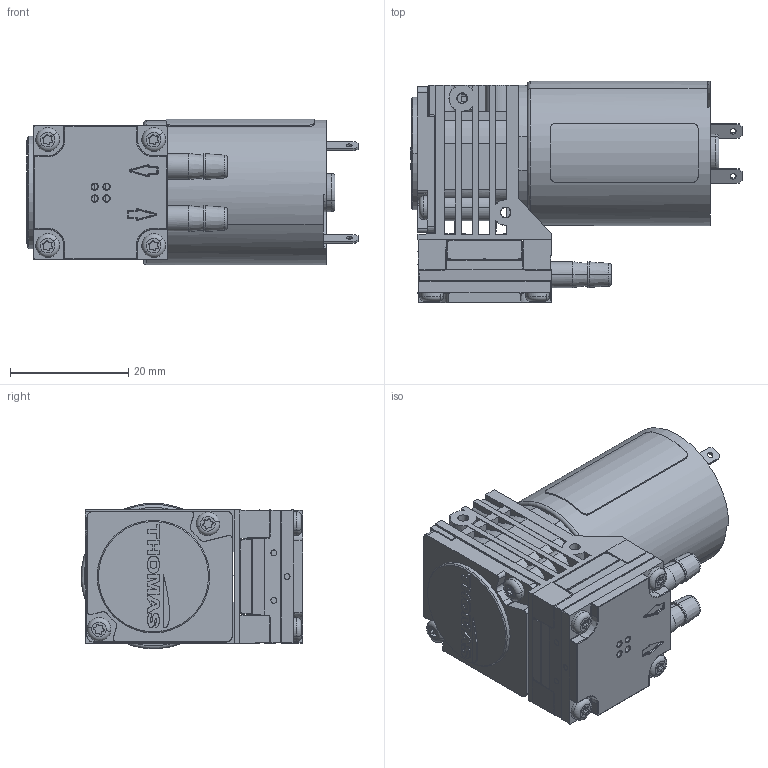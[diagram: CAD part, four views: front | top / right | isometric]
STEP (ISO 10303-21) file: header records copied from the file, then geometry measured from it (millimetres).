
FILE_DESCRIPTION (( 'STEP AP214' ), '1' );
FILE_NAME ('1210 DC Standard Hose Barbs.STEP', '2022-01-24T14:00:34', ( '' ), ( '' ), 'SwSTEP 2.0', 'SolidWorks 2020', '' );
FILE_SCHEMA (( 'AUTOMOTIVE_DESIGN' ));
Length unit declared in the file: millimetre
Products named in the file (1): 1210 DC Standard Hose Barbs
Bounding box: 56.05 x 37.4 x 24.59 mm (x, y, z)
Surface area: 9614.4 mm2 (no closed solid volume)
Topology: 0 solids, 22 shells, 1062 faces, 4028 edges, 2841 vertices
Faces by surface type: plane 595, cylinder 321, cone 70, torus 36, bspline 28, sphere 12
Entity records: 54516 total; most frequent: CARTESIAN_POINT 10150, DIRECTION 6511, ORIENTED_EDGE 6500, EDGE_CURVE 4016, VERTEX_POINT 2841, LINE 2779, VECTOR 2779, AXIS2_PLACEMENT_3D 1866
